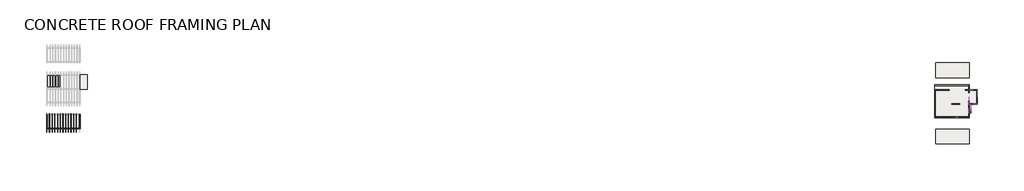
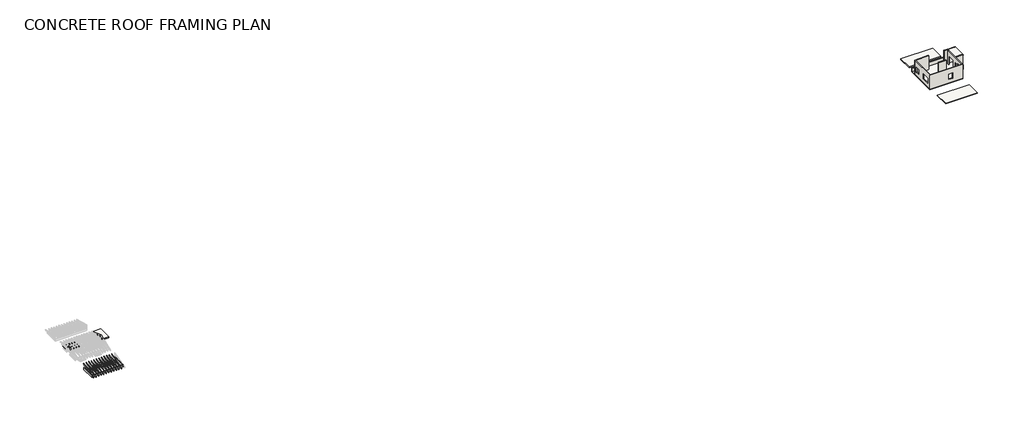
# One storey, part 1 of 6: 52 beams, 12 walls, 8 slabs.
"""IFC4 building model written with IfcOpenShell, lengths in millimetres."""

from ifc_helpers import new_model, si_unit, frame, origin, place, context, project, spatial, polyline, outline, extrude, faceted_brep, element, save

model = new_model("IFC4")

# Units and contexts
model_context = context("Model", 3, world=origin())
ifc_project = project(units=[si_unit("LENGTHUNIT", "METRE", prefix="MILLI")], contexts=[model_context])

# Site, building, storey
site = spatial("IfcSite", under=ifc_project)
building = spatial("IfcBuilding", under=site)
storey = spatial("IfcBuildingStorey", under=building, Name="CONCRETE ROOF FRAMING PLAN", Elevation=3048.0)

# Beams
placement = place(None, origin())
element("IfcBeam", 1, ObjectType="Concrete-Rectangular Beam : 5 5/8 x 16", at=placement, inside=storey, context=model_context, shape_type="Brep", body=[
    faceted_brep([(152.4, -2619.4155437, 2437.4750123), (77.7875, -2619.4155437, 2437.4750123), (9.525, -2619.4155437, 2437.4750123), (9.525, -5953.1655549, 2437.4750123), (39.6875, -5953.1655549, 2437.4750123), (152.4, -5953.1655549, 2437.4750123), (152.4, -5810.2905549, 2437.4750123), (152.4, -2762.2905437, 2437.4750123), (9.525, -2619.4155437, 2032.0), (9.525, -2762.2905437, 2032.0), (9.525, -2762.2905437, 2031.0750123), (9.525, -5810.2905549, 2031.0750123), (9.525, -5810.2905549, 2031.5384896), (9.525, -5953.1655549, 2031.5384896), (152.4, -5810.2905549, 2031.0750123), (152.4, -2762.2905437, 2031.0750123), (152.4, -5953.1655549, 2032.0), (152.4, -5953.1655549, 2031.5384896), (152.4, -5810.2905549, 2031.5384896), (152.4, -2762.2905437, 2032.0), (152.4, -2619.4155437, 2032.0)], [[[0, 1, 2, 3, 4, 5, 6, 7]], [[3, 2, 8, 9, 10, 11, 12, 13]], [[14, 11, 10, 15]], [[0, 7, 6, 5, 16, 17, 18, 14, 15, 19, 20]], [[2, 1, 0, 20, 8]], [[5, 4, 3, 13, 17, 16]], [[12, 11, 14, 18]], [[13, 12, 18, 17]], [[9, 19, 15, 10]], [[19, 9, 8, 20]]]),
])
element("IfcBeam", 2, ObjectType="Concrete-Rectangular Beam : 5 5/8 x 16", at=placement, inside=storey, context=model_context, shape_type="Brep", body=[
    faceted_brep([(7610.475, -2619.4155437, 2438.4), (7467.6, -2619.4155437, 2438.4), (7467.6, -2762.2905437, 2438.4), (7467.6, -5810.2905549, 2438.4), (7467.6, -5953.1655549, 2438.4), (7610.475, -5953.1655549, 2438.4), (7467.6, -2619.4155437, 2032.0), (7467.6, -2762.2905437, 2032.0), (7467.6, -3838.6155549, 2032.0), (7467.6, -4753.0155549, 2032.0), (7467.6, -5810.2905549, 2032.0), (7467.6, -5953.1655549, 2032.0), (7610.475, -2619.4155437, 2032.0), (7610.475, -3838.6155549, 2032.0), (7610.475, -4753.0155549, 2032.0), (7610.475, -5810.2905549, 2032.0), (7610.475, -5953.1655549, 2032.0)], [[[0, 1, 2, 3, 4, 5]], [[1, 6, 7, 8, 9, 10, 11, 4, 3, 2]], [[6, 12, 13, 14, 15, 16, 11, 10, 9, 8, 7]], [[12, 0, 5, 16, 15, 14, 13]], [[1, 0, 12, 6]], [[5, 4, 11, 16]]]),
])
element("IfcBeam", 3, ObjectType="Concrete-Rectangular Beam : 5 5/8 x 16", at=placement, inside=storey, context=model_context, shape_type="SweptSolid", body=[
    extrude(outline(polyline([(2438.4, 39.6875), (2437.4750123, 39.6875), (2437.4750123, 152.4), (2032.0, 152.4), (2032.0, 7467.6), (2438.4, 7467.6), (2438.4, 39.6875)])), frame((0.0, -5953.1655549, 0.0), z_axis=(0.0, 1.0, 0.0), x_axis=(0.0, 0.0, 1.0)), (0.0, 0.0, 1.0), 142.875),
])
element("IfcBeam", 4, ObjectType="Dimension Lumber : 2x4", at=placement, inside=storey, context=model_context, shape_type="SweptSolid", body=[
    extrude(outline(polyline([(100.0125, -4882.1322103), (61.9125, -4882.1322103), (61.9125, -4793.2322103), (100.0125, -4793.2322103), (100.0125, -4882.1322103)])), frame((0.0, 0.0, 2578.1), z_axis=(0.0, 0.0, 1.0), x_axis=(1.0, 0.0, 0.0)), (0.0, 0.0, 1.0), 202.3272588),
    extrude(outline(polyline([(-4793.2322103, 2752.8257293), (-4793.2322103, 2578.1), (-4882.1322103, 2578.1), (-4882.1322103, 2728.395195), (-4793.2322103, 2752.8257293)])), frame((61.9125, 0.0, 0.0), z_axis=(1.0, 0.0, 0.0), x_axis=(0.0, 1.0, 0.0)), (0.0, 0.0, 1.0), 38.1),
])
element("IfcBeam", 5, ObjectType="Dimension Lumber : 2x4", at=placement, inside=storey, context=model_context, shape_type="SweptSolid", body=[
    extrude(outline(polyline([(0.0, 38.1), (1058.05628, 38.1), (1058.05628, 0.0), (0.0, 0.0), (0.0, 38.1)])), frame((100.0125, -4805.0108113, 2757.9737126), z_axis=(0.0, 0.26498539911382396, 0.964252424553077), x_axis=(0.0, 0.964252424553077, -0.26498539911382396)), (0.0, 0.0, 1.0), 88.9),
    extrude(outline(polyline([(-4781.4536093, 2843.6957531), (-3814.9801745, 2578.1), (-4150.4703573, 2578.1), (-4805.0108113, 2757.9737126), (-4781.4536093, 2843.6957531)])), frame((61.9125, 0.0, 0.0), z_axis=(1.0, 0.0, 0.0), x_axis=(0.0, 1.0, 0.0)), (0.0, 0.0, 1.0), 38.1),
    extrude(outline(polyline([(-4622.0099499, 2799.8791749), (-3814.9801745, 2578.1), (-4150.4703573, 2578.1), (-4789.7550414, 2753.7812872), (-4622.0099499, 2799.8791749)])), frame((61.9125, 0.0, 0.0), z_axis=(1.0, 0.0, 0.0), x_axis=(0.0, 1.0, 0.0)), (0.0, 0.0, 1.0), 38.1),
])
element("IfcBeam", 6, ObjectType="Dimension Lumber : 2x4", at=placement, inside=storey, context=model_context, shape_type="SweptSolid", body=[
    extrude(outline(polyline([(709.6125, -4882.1322103), (671.5125, -4882.1322103), (671.5125, -4793.2322103), (709.6125, -4793.2322103), (709.6125, -4882.1322103)])), frame((0.0, 0.0, 2578.1), z_axis=(0.0, 0.0, 1.0), x_axis=(1.0, 0.0, 0.0)), (0.0, 0.0, 1.0), 202.3272588),
])
element("IfcBeam", 7, ObjectType="Dimension Lumber : 2x4", at=placement, inside=storey, context=model_context, shape_type="SweptSolid", body=[
    extrude(outline(polyline([(0.0, 38.1), (1058.05628, 38.1), (1058.05628, 0.0), (0.0, 0.0), (0.0, 38.1)])), frame((709.6125, -4805.0108113, 2757.9737126), z_axis=(0.0, 0.26498539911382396, 0.964252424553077), x_axis=(0.0, 0.964252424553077, -0.26498539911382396)), (0.0, 0.0, 1.0), 88.9),
])
element("IfcBeam", 8, ObjectType="Dimension Lumber : 2x4", at=placement, inside=storey, context=model_context, shape_type="SweptSolid", body=[
    extrude(outline(polyline([(1319.2125, -4882.1322103), (1281.1125, -4882.1322103), (1281.1125, -4793.2322103), (1319.2125, -4793.2322103), (1319.2125, -4882.1322103)])), frame((0.0, 0.0, 2578.1), z_axis=(0.0, 0.0, 1.0), x_axis=(1.0, 0.0, 0.0)), (0.0, 0.0, 1.0), 202.3272588),
])
element("IfcBeam", 9, ObjectType="Dimension Lumber : 2x4", at=placement, inside=storey, context=model_context, shape_type="SweptSolid", body=[
    extrude(outline(polyline([(0.0, 38.1), (1058.05628, 38.1), (1058.05628, 0.0), (0.0, 0.0), (0.0, 38.1)])), frame((1319.2125, -4805.0108113, 2757.9737126), z_axis=(0.0, 0.26498539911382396, 0.964252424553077), x_axis=(0.0, 0.964252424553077, -0.26498539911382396)), (0.0, 0.0, 1.0), 88.9),
])
element("IfcBeam", 10, ObjectType="Dimension Lumber : 2x4", at=placement, inside=storey, context=model_context, shape_type="SweptSolid", body=[
    extrude(outline(polyline([(1928.8125, -4882.1322103), (1890.7125, -4882.1322103), (1890.7125, -4793.2322103), (1928.8125, -4793.2322103), (1928.8125, -4882.1322103)])), frame((0.0, 0.0, 2578.1), z_axis=(0.0, 0.0, 1.0), x_axis=(1.0, 0.0, 0.0)), (0.0, 0.0, 1.0), 202.3272588),
])
element("IfcBeam", 11, ObjectType="Dimension Lumber : 2x4", at=placement, inside=storey, context=model_context, shape_type="SweptSolid", body=[
    extrude(outline(polyline([(0.0, 38.1), (1058.05628, 38.1), (1058.05628, 0.0), (0.0, 0.0), (0.0, 38.1)])), frame((1928.8125, -4805.0108113, 2757.9737126), z_axis=(0.0, 0.26498539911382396, 0.964252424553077), x_axis=(0.0, 0.964252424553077, -0.26498539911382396)), (0.0, 0.0, 1.0), 88.9),
])
element("IfcBeam", 12, ObjectType="Dimension Lumber : 2x4", at=placement, inside=storey, context=model_context, shape_type="SweptSolid", body=[
    extrude(outline(polyline([(2538.4125, -4882.1322103), (2500.3125, -4882.1322103), (2500.3125, -4793.2322103), (2538.4125, -4793.2322103), (2538.4125, -4882.1322103)])), frame((0.0, 0.0, 2578.1), z_axis=(0.0, 0.0, 1.0), x_axis=(1.0, 0.0, 0.0)), (0.0, 0.0, 1.0), 202.3272588),
])
element("IfcBeam", 13, ObjectType="Dimension Lumber : 2x4", at=placement, inside=storey, context=model_context, shape_type="SweptSolid", body=[
    extrude(outline(polyline([(0.0, 38.1), (1058.05628, 38.1), (1058.05628, 0.0), (0.0, 0.0), (0.0, 38.1)])), frame((2538.4125, -4805.0108113, 2757.9737126), z_axis=(0.0, 0.26498539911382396, 0.964252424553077), x_axis=(0.0, 0.964252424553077, -0.26498539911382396)), (0.0, 0.0, 1.0), 88.9),
])
element("IfcBeam", 14, ObjectType="Dimension Lumber : 2x4", at=placement, inside=storey, context=model_context, shape_type="SweptSolid", body=[
    extrude(outline(polyline([(3148.0125, -4882.1322103), (3109.9125, -4882.1322103), (3109.9125, -4793.2322103), (3148.0125, -4793.2322103), (3148.0125, -4882.1322103)])), frame((0.0, 0.0, 2578.1), z_axis=(0.0, 0.0, 1.0), x_axis=(1.0, 0.0, 0.0)), (0.0, 0.0, 1.0), 202.3272588),
])
element("IfcBeam", 15, ObjectType="Dimension Lumber : 2x4", at=placement, inside=storey, context=model_context, shape_type="SweptSolid", body=[
    extrude(outline(polyline([(0.0, 38.1), (1058.05628, 38.1), (1058.05628, 0.0), (0.0, 0.0), (0.0, 38.1)])), frame((3148.0125, -4805.0108113, 2757.9737126), z_axis=(0.0, 0.26498539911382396, 0.964252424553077), x_axis=(0.0, 0.964252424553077, -0.26498539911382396)), (0.0, 0.0, 1.0), 88.9),
])
element("IfcBeam", 16, ObjectType="Dimension Lumber : 2x4", at=placement, inside=storey, context=model_context, shape_type="SweptSolid", body=[
    extrude(outline(polyline([(3757.6125, -4882.1322103), (3719.5125, -4882.1322103), (3719.5125, -4793.2322103), (3757.6125, -4793.2322103), (3757.6125, -4882.1322103)])), frame((0.0, 0.0, 2578.1), z_axis=(0.0, 0.0, 1.0), x_axis=(1.0, 0.0, 0.0)), (0.0, 0.0, 1.0), 202.3272588),
])
element("IfcBeam", 17, ObjectType="Dimension Lumber : 2x4", at=placement, inside=storey, context=model_context, shape_type="SweptSolid", body=[
    extrude(outline(polyline([(0.0, 38.1), (1058.05628, 38.1), (1058.05628, 0.0), (0.0, 0.0), (0.0, 38.1)])), frame((3757.6125, -4805.0108113, 2757.9737126), z_axis=(0.0, 0.26498539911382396, 0.964252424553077), x_axis=(0.0, 0.964252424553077, -0.26498539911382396)), (0.0, 0.0, 1.0), 88.9),
])
element("IfcBeam", 18, ObjectType="Dimension Lumber : 2x4", at=placement, inside=storey, context=model_context, shape_type="SweptSolid", body=[
    extrude(outline(polyline([(4367.2125, -4882.1322103), (4329.1125, -4882.1322103), (4329.1125, -4793.2322103), (4367.2125, -4793.2322103), (4367.2125, -4882.1322103)])), frame((0.0, 0.0, 2578.1), z_axis=(0.0, 0.0, 1.0), x_axis=(1.0, 0.0, 0.0)), (0.0, 0.0, 1.0), 202.3272588),
])
element("IfcBeam", 19, ObjectType="Dimension Lumber : 2x4", at=placement, inside=storey, context=model_context, shape_type="SweptSolid", body=[
    extrude(outline(polyline([(0.0, 38.1), (1058.05628, 38.1), (1058.05628, 0.0), (0.0, 0.0), (0.0, 38.1)])), frame((4367.2125, -4805.0108113, 2757.9737126), z_axis=(0.0, 0.26498539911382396, 0.964252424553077), x_axis=(0.0, 0.964252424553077, -0.26498539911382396)), (0.0, 0.0, 1.0), 88.9),
])
element("IfcBeam", 20, ObjectType="Dimension Lumber : 2x4", at=placement, inside=storey, context=model_context, shape_type="SweptSolid", body=[
    extrude(outline(polyline([(4976.8125, -4882.1322103), (4938.7125, -4882.1322103), (4938.7125, -4793.2322103), (4976.8125, -4793.2322103), (4976.8125, -4882.1322103)])), frame((0.0, 0.0, 2578.1), z_axis=(0.0, 0.0, 1.0), x_axis=(1.0, 0.0, 0.0)), (0.0, 0.0, 1.0), 202.3272588),
])
element("IfcBeam", 21, ObjectType="Dimension Lumber : 2x4", at=placement, inside=storey, context=model_context, shape_type="SweptSolid", body=[
    extrude(outline(polyline([(0.0, 38.1), (1058.05628, 38.1), (1058.05628, 0.0), (0.0, 0.0), (0.0, 38.1)])), frame((4976.8125, -4805.0108113, 2757.9737126), z_axis=(0.0, 0.26498539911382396, 0.964252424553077), x_axis=(0.0, 0.964252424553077, -0.26498539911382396)), (0.0, 0.0, 1.0), 88.9),
])
element("IfcBeam", 22, ObjectType="Dimension Lumber : 2x4", at=placement, inside=storey, context=model_context, shape_type="SweptSolid", body=[
    extrude(outline(polyline([(5586.4125, -4882.1322103), (5548.3125, -4882.1322103), (5548.3125, -4793.2322103), (5586.4125, -4793.2322103), (5586.4125, -4882.1322103)])), frame((0.0, 0.0, 2578.1), z_axis=(0.0, 0.0, 1.0), x_axis=(1.0, 0.0, 0.0)), (0.0, 0.0, 1.0), 202.3272588),
])
element("IfcBeam", 23, ObjectType="Dimension Lumber : 2x4", at=placement, inside=storey, context=model_context, shape_type="SweptSolid", body=[
    extrude(outline(polyline([(0.0, 38.1), (1058.05628, 38.1), (1058.05628, 0.0), (0.0, 0.0), (0.0, 38.1)])), frame((5586.4125, -4805.0108113, 2757.9737126), z_axis=(0.0, 0.26498539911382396, 0.964252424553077), x_axis=(0.0, 0.964252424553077, -0.26498539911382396)), (0.0, 0.0, 1.0), 88.9),
])
element("IfcBeam", 24, ObjectType="Dimension Lumber : 2x4", at=placement, inside=storey, context=model_context, shape_type="SweptSolid", body=[
    extrude(outline(polyline([(6196.0125, -4882.1322103), (6157.9125, -4882.1322103), (6157.9125, -4793.2322103), (6196.0125, -4793.2322103), (6196.0125, -4882.1322103)])), frame((0.0, 0.0, 2578.1), z_axis=(0.0, 0.0, 1.0), x_axis=(1.0, 0.0, 0.0)), (0.0, 0.0, 1.0), 202.3272588),
])
element("IfcBeam", 25, ObjectType="Dimension Lumber : 2x4", at=placement, inside=storey, context=model_context, shape_type="SweptSolid", body=[
    extrude(outline(polyline([(0.0, 38.1), (1058.05628, 38.1), (1058.05628, 0.0), (0.0, 0.0), (0.0, 38.1)])), frame((6196.0125, -4805.0108113, 2757.9737126), z_axis=(0.0, 0.26498539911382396, 0.964252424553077), x_axis=(0.0, 0.964252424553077, -0.26498539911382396)), (0.0, 0.0, 1.0), 88.9),
])
element("IfcBeam", 26, ObjectType="Dimension Lumber : 2x4", at=placement, inside=storey, context=model_context, shape_type="SweptSolid", body=[
    extrude(outline(polyline([(6805.6125, -4882.1322103), (6767.5125, -4882.1322103), (6767.5125, -4793.2322103), (6805.6125, -4793.2322103), (6805.6125, -4882.1322103)])), frame((0.0, 0.0, 2578.1), z_axis=(0.0, 0.0, 1.0), x_axis=(1.0, 0.0, 0.0)), (0.0, 0.0, 1.0), 202.3272588),
])
element("IfcBeam", 27, ObjectType="Dimension Lumber : 2x4", at=placement, inside=storey, context=model_context, shape_type="SweptSolid", body=[
    extrude(outline(polyline([(0.0, 38.1), (1058.05628, 38.1), (1058.05628, 0.0), (0.0, 0.0), (0.0, 38.1)])), frame((6805.6125, -4805.0108113, 2757.9737126), z_axis=(0.0, 0.26498539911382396, 0.964252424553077), x_axis=(0.0, 0.964252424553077, -0.26498539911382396)), (0.0, 0.0, 1.0), 88.9),
])
element("IfcBeam", 28, ObjectType="Dimension Lumber : 2x6", at=placement, inside=storey, context=model_context, shape_type="SweptSolid", body=[
    extrude(outline(polyline([(7519.9875, -5956.2385842), (7519.9875, -2619.4155437), (7558.0875, -2619.4155437), (7558.0875, -5956.2385842), (7519.9875, -5956.2385842)])), frame((0.0, 0.0, 2438.4), z_axis=(0.0, 0.0, 1.0), x_axis=(1.0, 0.0, 0.0)), (0.0, 0.0, 1.0), 139.7),
    extrude(outline(polyline([(-5429.0397254, 2578.1), (-2619.4155437, 2578.1), (-2619.4155437, 2438.4), (-5937.3925032, 2438.4), (-5429.0397254, 2578.1)])), frame((7519.9875, 0.0, 0.0), z_axis=(1.0, 0.0, 0.0), x_axis=(0.0, 1.0, 0.0)), (0.0, 0.0, 1.0), 38.1),
])
element("IfcBeam", 29, ObjectType="Dimension Lumber : 2x6", at=placement, inside=storey, context=model_context, shape_type="SweptSolid", body=[
    extrude(outline(polyline([(61.9125, -5956.2385842), (61.9125, -2619.4155437), (100.0125, -2619.4155437), (100.0125, -5956.2385842), (61.9125, -5956.2385842)])), frame((0.0, 0.0, 2438.4), z_axis=(0.0, 0.0, 1.0), x_axis=(1.0, 0.0, 0.0)), (0.0, 0.0, 1.0), 139.7),
    extrude(outline(polyline([(-5429.0397254, 2578.1), (-2619.4155437, 2578.1), (-2619.4155437, 2438.4), (-5937.3925032, 2438.4), (-5429.0397254, 2578.1)])), frame((61.9125, 0.0, 0.0), z_axis=(1.0, 0.0, 0.0), x_axis=(0.0, 1.0, 0.0)), (0.0, 0.0, 1.0), 38.1),
])
element("IfcBeam", 30, ObjectType="Dimension Lumber : 2x6", at=placement, inside=storey, context=model_context, shape_type="SweptSolid", body=[
    extrude(outline(polyline([(0.0, 38.1), (4270.8351979, 38.1), (4270.8351979, 0.0), (0.0, 0.0), (0.0, 38.1)])), frame((100.0125, -6628.5688352, 2248.4584126), z_axis=(0.0, -0.2649853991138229, 0.9642524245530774), x_axis=(0.0, 0.9642524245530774, 0.2649853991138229)), (0.0, 0.0, 1.0), 139.7),
    extrude(outline(polyline([(-6562.7655549, 2411.4208325), (-2547.424101, 3514.8734458), (-2510.4056407, 3380.167382), (-6562.7655549, 2266.5417568), (-6562.7655549, 2411.4208325)])), frame((61.9125, 0.0, 0.0), z_axis=(1.0, 0.0, 0.0), x_axis=(0.0, 1.0, 0.0)), (0.0, 0.0, 1.0), 38.1),
    extrude(outline(polyline([(-6562.7655549, 2411.4208325), (-2619.4155437, 3495.0895378), (-2619.4155437, 3350.2104622), (-6562.7655549, 2266.5417568), (-6562.7655549, 2411.4208325)])), frame((61.9125, 0.0, 0.0), z_axis=(1.0, 0.0, 0.0), x_axis=(0.0, 1.0, 0.0)), (0.0, 0.0, 1.0), 38.1),
])
element("IfcBeam", 31, ObjectType="Dimension Lumber : 2x6", at=placement, inside=storey, context=model_context, shape_type="SweptSolid", body=[
    extrude(outline(polyline([(671.5125, -5956.2385842), (671.5125, -2619.4155437), (709.6125, -2619.4155437), (709.6125, -5956.2385842), (671.5125, -5956.2385842)])), frame((0.0, 0.0, 2438.4), z_axis=(0.0, 0.0, 1.0), x_axis=(1.0, 0.0, 0.0)), (0.0, 0.0, 1.0), 139.7),
])
element("IfcBeam", 32, ObjectType="Dimension Lumber : 2x6", at=placement, inside=storey, context=model_context, shape_type="SweptSolid", body=[
    extrude(outline(polyline([(0.0, 38.1), (4270.8351979, 38.1), (4270.8351979, 0.0), (0.0, 0.0), (0.0, 38.1)])), frame((709.6125, -6628.5688352, 2248.4584126), z_axis=(0.0, -0.2649853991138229, 0.9642524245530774), x_axis=(0.0, 0.9642524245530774, 0.2649853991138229)), (0.0, 0.0, 1.0), 139.7),
])
element("IfcBeam", 33, ObjectType="Dimension Lumber : 2x6", at=placement, inside=storey, context=model_context, shape_type="SweptSolid", body=[
    extrude(outline(polyline([(1281.1125, -5956.2385842), (1281.1125, -2619.4155437), (1319.2125, -2619.4155437), (1319.2125, -5956.2385842), (1281.1125, -5956.2385842)])), frame((0.0, 0.0, 2438.4), z_axis=(0.0, 0.0, 1.0), x_axis=(1.0, 0.0, 0.0)), (0.0, 0.0, 1.0), 139.7),
])
element("IfcBeam", 34, ObjectType="Dimension Lumber : 2x6", at=placement, inside=storey, context=model_context, shape_type="SweptSolid", body=[
    extrude(outline(polyline([(0.0, 38.1), (4270.8351979, 38.1), (4270.8351979, 0.0), (0.0, 0.0), (0.0, 38.1)])), frame((1319.2125, -6628.5688352, 2248.4584126), z_axis=(0.0, -0.2649853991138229, 0.9642524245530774), x_axis=(0.0, 0.9642524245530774, 0.2649853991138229)), (0.0, 0.0, 1.0), 139.7),
])
element("IfcBeam", 35, ObjectType="Dimension Lumber : 2x6", at=placement, inside=storey, context=model_context, shape_type="SweptSolid", body=[
    extrude(outline(polyline([(1890.7125, -5956.2385842), (1890.7125, -2619.4155437), (1928.8125, -2619.4155437), (1928.8125, -5956.2385842), (1890.7125, -5956.2385842)])), frame((0.0, 0.0, 2438.4), z_axis=(0.0, 0.0, 1.0), x_axis=(1.0, 0.0, 0.0)), (0.0, 0.0, 1.0), 139.7),
])
element("IfcBeam", 36, ObjectType="Dimension Lumber : 2x6", at=placement, inside=storey, context=model_context, shape_type="SweptSolid", body=[
    extrude(outline(polyline([(0.0, 38.1), (4270.8351979, 38.1), (4270.8351979, 0.0), (0.0, 0.0), (0.0, 38.1)])), frame((1928.8125, -6628.5688352, 2248.4584126), z_axis=(0.0, -0.2649853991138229, 0.9642524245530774), x_axis=(0.0, 0.9642524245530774, 0.2649853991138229)), (0.0, 0.0, 1.0), 139.7),
])
element("IfcBeam", 37, ObjectType="Dimension Lumber : 2x6", at=placement, inside=storey, context=model_context, shape_type="SweptSolid", body=[
    extrude(outline(polyline([(2500.3125, -5956.2385842), (2500.3125, -2619.4155437), (2538.4125, -2619.4155437), (2538.4125, -5956.2385842), (2500.3125, -5956.2385842)])), frame((0.0, 0.0, 2438.4), z_axis=(0.0, 0.0, 1.0), x_axis=(1.0, 0.0, 0.0)), (0.0, 0.0, 1.0), 139.7),
])
element("IfcBeam", 38, ObjectType="Dimension Lumber : 2x6", at=placement, inside=storey, context=model_context, shape_type="SweptSolid", body=[
    extrude(outline(polyline([(0.0, 38.1), (4270.8351979, 38.1), (4270.8351979, 0.0), (0.0, 0.0), (0.0, 38.1)])), frame((2538.4125, -6628.5688352, 2248.4584126), z_axis=(0.0, -0.2649853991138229, 0.9642524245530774), x_axis=(0.0, 0.9642524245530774, 0.2649853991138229)), (0.0, 0.0, 1.0), 139.7),
])
element("IfcBeam", 39, ObjectType="Dimension Lumber : 2x6", at=placement, inside=storey, context=model_context, shape_type="SweptSolid", body=[
    extrude(outline(polyline([(3109.9125, -5956.2385842), (3109.9125, -2619.4155437), (3148.0125, -2619.4155437), (3148.0125, -5956.2385842), (3109.9125, -5956.2385842)])), frame((0.0, 0.0, 2438.4), z_axis=(0.0, 0.0, 1.0), x_axis=(1.0, 0.0, 0.0)), (0.0, 0.0, 1.0), 139.7),
])
element("IfcBeam", 40, ObjectType="Dimension Lumber : 2x6", at=placement, inside=storey, context=model_context, shape_type="SweptSolid", body=[
    extrude(outline(polyline([(0.0, 38.1), (4270.8351979, 38.1), (4270.8351979, 0.0), (0.0, 0.0), (0.0, 38.1)])), frame((3148.0125, -6628.5688352, 2248.4584126), z_axis=(0.0, -0.2649853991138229, 0.9642524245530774), x_axis=(0.0, 0.9642524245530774, 0.2649853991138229)), (0.0, 0.0, 1.0), 139.7),
])
element("IfcBeam", 41, ObjectType="Dimension Lumber : 2x6", at=placement, inside=storey, context=model_context, shape_type="SweptSolid", body=[
    extrude(outline(polyline([(3719.5125, -5956.2385842), (3719.5125, -2619.4155437), (3757.6125, -2619.4155437), (3757.6125, -5956.2385842), (3719.5125, -5956.2385842)])), frame((0.0, 0.0, 2438.4), z_axis=(0.0, 0.0, 1.0), x_axis=(1.0, 0.0, 0.0)), (0.0, 0.0, 1.0), 139.7),
])
element("IfcBeam", 42, ObjectType="Dimension Lumber : 2x6", at=placement, inside=storey, context=model_context, shape_type="SweptSolid", body=[
    extrude(outline(polyline([(0.0, 38.1), (4270.8351979, 38.1), (4270.8351979, 0.0), (0.0, 0.0), (0.0, 38.1)])), frame((3757.6125, -6628.5688352, 2248.4584126), z_axis=(0.0, -0.2649853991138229, 0.9642524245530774), x_axis=(0.0, 0.9642524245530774, 0.2649853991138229)), (0.0, 0.0, 1.0), 139.7),
])
element("IfcBeam", 43, ObjectType="Dimension Lumber : 2x6", at=placement, inside=storey, context=model_context, shape_type="SweptSolid", body=[
    extrude(outline(polyline([(4329.1125, -5956.2385842), (4329.1125, -2619.4155437), (4367.2125, -2619.4155437), (4367.2125, -5956.2385842), (4329.1125, -5956.2385842)])), frame((0.0, 0.0, 2438.4), z_axis=(0.0, 0.0, 1.0), x_axis=(1.0, 0.0, 0.0)), (0.0, 0.0, 1.0), 139.7),
])
element("IfcBeam", 44, ObjectType="Dimension Lumber : 2x6", at=placement, inside=storey, context=model_context, shape_type="SweptSolid", body=[
    extrude(outline(polyline([(0.0, 38.1), (4270.8351979, 38.1), (4270.8351979, 0.0), (0.0, 0.0), (0.0, 38.1)])), frame((4367.2125, -6628.5688352, 2248.4584126), z_axis=(0.0, -0.2649853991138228, 0.9642524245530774), x_axis=(0.0, 0.9642524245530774, 0.2649853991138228)), (0.0, 0.0, 1.0), 139.7),
])
element("IfcBeam", 45, ObjectType="Dimension Lumber : 2x6", at=placement, inside=storey, context=model_context, shape_type="SweptSolid", body=[
    extrude(outline(polyline([(4938.7125, -5956.2385842), (4938.7125, -2619.4155437), (4976.8125, -2619.4155437), (4976.8125, -5956.2385842), (4938.7125, -5956.2385842)])), frame((0.0, 0.0, 2438.4), z_axis=(0.0, 0.0, 1.0), x_axis=(1.0, 0.0, 0.0)), (0.0, 0.0, 1.0), 139.7),
])
element("IfcBeam", 46, ObjectType="Dimension Lumber : 2x6", at=placement, inside=storey, context=model_context, shape_type="SweptSolid", body=[
    extrude(outline(polyline([(0.0, 38.1), (4270.8351979, 38.1), (4270.8351979, 0.0), (0.0, 0.0), (0.0, 38.1)])), frame((4976.8125, -6628.5688352, 2248.4584126), z_axis=(0.0, -0.2649853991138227, 0.9642524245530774), x_axis=(0.0, 0.9642524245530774, 0.2649853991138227)), (0.0, 0.0, 1.0), 139.7),
])
element("IfcBeam", 47, ObjectType="Dimension Lumber : 2x6", at=placement, inside=storey, context=model_context, shape_type="SweptSolid", body=[
    extrude(outline(polyline([(5548.3125, -5956.2385842), (5548.3125, -2619.4155437), (5586.4125, -2619.4155437), (5586.4125, -5956.2385842), (5548.3125, -5956.2385842)])), frame((0.0, 0.0, 2438.4), z_axis=(0.0, 0.0, 1.0), x_axis=(1.0, 0.0, 0.0)), (0.0, 0.0, 1.0), 139.7),
])
element("IfcBeam", 48, ObjectType="Dimension Lumber : 2x6", at=placement, inside=storey, context=model_context, shape_type="SweptSolid", body=[
    extrude(outline(polyline([(0.0, 38.1), (4270.8351979, 38.1), (4270.8351979, 0.0), (0.0, 0.0), (0.0, 38.1)])), frame((5586.4125, -6628.5688352, 2248.4584126), z_axis=(0.0, -0.2649853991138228, 0.9642524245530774), x_axis=(0.0, 0.9642524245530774, 0.2649853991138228)), (0.0, 0.0, 1.0), 139.7),
])
element("IfcBeam", 49, ObjectType="Dimension Lumber : 2x6", at=placement, inside=storey, context=model_context, shape_type="SweptSolid", body=[
    extrude(outline(polyline([(6157.9125, -5956.2385842), (6157.9125, -2619.4155437), (6196.0125, -2619.4155437), (6196.0125, -5956.2385842), (6157.9125, -5956.2385842)])), frame((0.0, 0.0, 2438.4), z_axis=(0.0, 0.0, 1.0), x_axis=(1.0, 0.0, 0.0)), (0.0, 0.0, 1.0), 139.7),
])
element("IfcBeam", 50, ObjectType="Dimension Lumber : 2x6", at=placement, inside=storey, context=model_context, shape_type="SweptSolid", body=[
    extrude(outline(polyline([(0.0, 38.1), (4270.8351979, 38.1), (4270.8351979, 0.0), (0.0, 0.0), (0.0, 38.1)])), frame((6196.0125, -6628.5688352, 2248.4584126), z_axis=(0.0, -0.2649853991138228, 0.9642524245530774), x_axis=(0.0, 0.9642524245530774, 0.2649853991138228)), (0.0, 0.0, 1.0), 139.7),
])
element("IfcBeam", 51, ObjectType="Dimension Lumber : 2x6", at=placement, inside=storey, context=model_context, shape_type="SweptSolid", body=[
    extrude(outline(polyline([(6767.5125, -5956.2385842), (6767.5125, -2619.4155437), (6805.6125, -2619.4155437), (6805.6125, -5956.2385842), (6767.5125, -5956.2385842)])), frame((0.0, 0.0, 2438.4), z_axis=(0.0, 0.0, 1.0), x_axis=(1.0, 0.0, 0.0)), (0.0, 0.0, 1.0), 139.7),
])
element("IfcBeam", 52, ObjectType="Dimension Lumber : 2x6", at=placement, inside=storey, context=model_context, shape_type="SweptSolid", body=[
    extrude(outline(polyline([(0.0, 38.1), (4270.8351979, 38.1), (4270.8351979, 0.0), (0.0, 0.0), (0.0, 38.1)])), frame((6805.6125, -6628.5688352, 2248.4584126), z_axis=(0.0, -0.2649853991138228, 0.9642524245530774), x_axis=(0.0, 0.9642524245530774, 0.2649853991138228)), (0.0, 0.0, 1.0), 139.7),
])

# Slabs
element("IfcSlab", 53, ObjectType="6\" Concrete", at=placement, inside=storey, context=model_context, shape_type="SweptSolid", body=[
    extrude(outline(polyline([(209635.3333898, 4057.5892742), (209635.3333898, 2990.7892742), (211464.1333898, 2990.7892742), (211464.1333898, -362.0107258), (209940.1333898, -362.0107258), (209940.1333898, -2343.2107258), (209635.3333898, -2343.2107258), (209635.3333898, -3390.9607258), (201748.6333898, -3390.9607258), (201748.6333898, 4057.5892742), (209635.3333898, 4057.5892742)])), frame((0.0, 0.0, 2438.4), z_axis=(0.0, 0.0, 1.0), x_axis=(1.0, 0.0, 0.0)), (0.0, 0.0, 1.0), 152.4),
])
element("IfcSlab", 54, ObjectType="6\" Concrete", at=placement, inside=storey, context=model_context, shape_type="SweptSolid", body=[
    extrude(outline(polyline([(209635.3333898, 9073.6275409), (209635.3333898, 5720.8275409), (202015.3333898, 5720.8275409), (202015.3333898, 9073.6275409), (209635.3333898, 9073.6275409)])), frame((0.0, 0.0, 2438.4), z_axis=(0.0, 0.0, 1.0), x_axis=(1.0, 0.0, 0.0)), (0.0, 0.0, 1.0), 152.4),
])
element("IfcSlab", 55, ObjectType="6\" Concrete", at=placement, inside=storey, context=model_context, shape_type="SweptSolid", body=[
    extrude(outline(polyline([(209635.3333898, -9372.7012695), (202015.3333898, -9372.7012695), (202015.3333898, -6019.9012695), (209635.3333898, -6019.9012695), (209635.3333898, -9372.7012695)])), frame((0.0, 0.0, 2438.4), z_axis=(0.0, 0.0, 1.0), x_axis=(1.0, 0.0, 0.0)), (0.0, 0.0, 1.0), 152.4),
])
element("IfcSlab", 56, ObjectType="6\" Concrete", at=placement, inside=storey, context=model_context, shape_type="SweptSolid", body=[
    extrude(outline(polyline([(209635.3333898, 2990.7892742), (211464.1333898, 2990.7892742), (211464.1333898, -362.0107258), (209635.3333898, -362.0107258), (209635.3333898, 2990.7892742)])), frame((0.0, 0.0, 5943.6), z_axis=(0.0, 0.0, 1.0), x_axis=(1.0, 0.0, 0.0)), (0.0, 0.0, 1.0), 152.4),
])
element("IfcSlab", 57, ObjectType="6\" Concrete", at=placement, inside=storey, context=model_context, shape_type="Brep", body=[
    faceted_brep([(7661.275, 3038.475, 3352.8), (7661.275, 3232.15, 3352.8), (7661.275, 6197.6, 3352.8), (7661.275, 6391.275, 3352.8), (7966.075, 6391.275, 3352.8), (8982.075, 6391.275, 3352.8), (9286.875, 6391.275, 3352.8), (9286.875, 6197.6, 3352.8), (9286.875, 3232.15, 3352.8), (9286.875, 3038.475, 3352.8), (8982.075, 3038.475, 3352.8), (7966.075, 3038.475, 3352.8), (7661.275, 3038.475, 3505.2), (9286.875, 3038.475, 3505.2), (9286.875, 6391.275, 3505.2), (7661.275, 6391.275, 3505.2)], [[[0, 1, 2, 3, 4, 5, 6, 7, 8, 9, 10, 11]], [[12, 13, 14, 15]], [[3, 2, 1, 0, 12, 15]], [[6, 5, 4, 3, 15, 14]], [[9, 8, 7, 6, 14, 13]], [[0, 11, 10, 9, 13, 12]]]),
])
element("IfcSlab", 58, ObjectType="6\" Concrete", at=placement, inside=storey, context=model_context, shape_type="SweptSolid", body=[
    extrude(outline(polyline([(203.2, 3606.8), (203.2, 6229.3499888), (2978.15, 6229.3499888), (2978.15, 3606.8), (203.2, 3606.8)])), frame((0.0, 0.0, 2438.4), z_axis=(0.0, 0.0, 1.0), x_axis=(1.0, 0.0, 0.0)), (0.0, 0.0, 1.0), 152.4),
])
element("IfcSlab", 59, ObjectType="Generic - 6\"", at=placement, inside=storey, context=model_context, shape_type="SweptSolid", body=[
    extrude(outline(polyline([(209482.9333898, -2343.2107258), (209482.9333898, -362.0107258), (209940.1333898, -362.0107258), (209940.1333898, -2343.2107258), (209482.9333898, -2343.2107258)])), frame((0.0, 0.0, 5029.2), z_axis=(0.0, 0.0, 1.0), x_axis=(1.0, 0.0, 0.0)), (0.0, 0.0, 1.0), 152.4),
])
element("IfcSlab", 60, ObjectType="Generic - 7\"", at=placement, inside=storey, context=model_context, shape_type="SweptSolid", body=[
    extrude(outline(polyline([(209482.9333898, -2343.2107258), (209482.9333898, -362.0107258), (209940.1333898, -362.0107258), (209940.1333898, -2343.2107258), (209482.9333898, -2343.2107258)])), frame((0.0, 0.0, 3327.4), z_axis=(0.0, 0.0, 1.0), x_axis=(1.0, 0.0, 0.0)), (0.0, 0.0, 1.0), 177.8),
])

# Walls
element("IfcWall", 61, ObjectType="Exterior - 6\" Concrete", at=placement, inside=storey, context=model_context, shape_type="Brep", body=[
    faceted_brep([(211311.7333898, 2990.7892742, 2590.8), (209635.3333898, 2990.7892742, 2590.8), (209635.3333898, 2990.7892742, 6096.0), (211311.7333898, 2990.7892742, 6096.0), (211311.7333898, 2990.7892742, 3505.2), (211311.7333898, 2838.3892742, 2590.8), (211311.7333898, 2838.3892742, 6096.0), (209635.3333898, 2838.3892742, 6096.0), (209635.3333898, 2838.3892742, 2590.8)], [[[0, 1, 2, 3, 4]], [[5, 6, 7, 8]], [[1, 0, 5, 8]], [[3, 2, 7, 6]], [[1, 8, 7, 2]], [[0, 4, 3, 6, 5]]]),
])
element("IfcWall", 62, ObjectType="Exterior - 6\" Concrete", at=placement, inside=storey, context=model_context, shape_type="Brep", body=[
    faceted_brep([(211311.7333898, -209.6107258, 2590.8), (209635.3333898, -209.6107258, 2590.8), (209635.3333898, -209.6107258, 6096.0), (211311.7333898, -209.6107258, 6096.0), (211311.7333898, -362.0107258, 2590.8), (211311.7333898, -362.0107258, 3505.2), (211311.7333898, -362.0107258, 6096.0), (209635.3333898, -362.0107258, 6096.0), (209635.3333898, -362.0107258, 4724.4), (209635.3333898, -362.0107258, 3505.2), (209635.3333898, -362.0107258, 2590.8)], [[[0, 1, 2, 3]], [[4, 5, 6, 7, 8, 9, 10]], [[1, 0, 4, 10]], [[3, 2, 7, 6]], [[2, 1, 10, 9, 8, 7]], [[0, 3, 6, 5, 4]]]),
])
element("IfcWall", 63, ObjectType="Exterior - 6\" Concrete", at=placement, inside=storey, context=model_context, shape_type="Brep", body=[
    faceted_brep([(211464.1333898, -362.0107258, 2590.8), (211464.1333898, 2990.7892742, 2590.8), (211464.1333898, 2990.7892742, 3505.2), (211464.1333898, -362.0107258, 3505.2), (211311.7333898, -362.0107258, 2590.8), (211311.7333898, -362.0107258, 3505.2), (211311.7333898, 2990.7892742, 3505.2), (211311.7333898, 2990.7892742, 2590.8), (211311.7333898, 2838.3892742, 2590.8), (211311.7333898, -209.6107258, 2590.8)], [[[0, 1, 2, 3]], [[4, 5, 6, 7, 8, 9]], [[1, 0, 4, 9, 8, 7]], [[3, 2, 6, 5]], [[2, 1, 7, 6]], [[0, 3, 5, 4]]]),
])
element("IfcWall", 64, ObjectType="Generic - 6\"", at=placement, inside=storey, context=model_context, shape_type="Brep", body=[
    faceted_brep([(205063.3333898, 2990.7892742, 2590.8), (201748.6333898, 2990.7892742, 2590.8), (201748.6333898, 2990.7892742, 6096.0), (205063.3333898, 2990.7892742, 6096.0), (205063.3333898, 2838.3892742, 2590.8), (205063.3333898, 2838.3892742, 6096.0), (201901.0333898, 2838.3892742, 6096.0), (201748.6333898, 2838.3892742, 6096.0), (201748.6333898, 2838.3892742, 2590.8), (201901.0333898, 2838.3892742, 2590.8)], [[[0, 1, 2, 3]], [[4, 5, 6, 7, 8, 9]], [[1, 0, 4, 9, 8]], [[3, 2, 7, 6, 5]], [[0, 3, 5, 4]], [[2, 1, 8, 7]]]),
])
element("IfcWall", 65, ObjectType="Generic - 6\"", at=placement, inside=storey, context=model_context, shape_type="SweptSolid", body=[
    extrude(outline(polyline([(2838.3892742, 2590.8), (-3238.5607258, 2590.8), (-3238.5607258, 6096.0), (2838.3892742, 6096.0), (2838.3892742, 2590.8)]), holes=[polyline([(-546.1607258, 4724.4), (-2374.9607258, 4724.4), (-2374.9607258, 3505.2), (-546.1607258, 3505.2), (-546.1607258, 4724.4)]), polyline([(2194.2580168, 4724.4), (1279.8580168, 4724.4), (1279.8580168, 3505.2), (2194.2580168, 3505.2), (2194.2580168, 4724.4)])]), frame((201748.6333898, 0.0, 0.0), z_axis=(1.0, 0.0, 0.0), x_axis=(0.0, 1.0, 0.0)), (0.0, 0.0, 1.0), 152.4),
])
element("IfcWall", 66, ObjectType="Generic - 6\"", at=placement, inside=storey, context=model_context, shape_type="Brep", body=[
    faceted_brep([(201748.6333898, -3390.9607258, 2590.8), (209635.3333898, -3390.9607258, 2590.8), (209635.3333898, -3390.9607258, 6096.0), (201748.6333898, -3390.9607258, 6096.0), (206282.5333898, -3390.9607258, 4822.3265688), (207196.9333898, -3390.9607258, 4822.3265688), (207196.9333898, -3390.9607258, 3505.2), (206282.5333898, -3390.9607258, 3505.2), (209635.3333898, -3238.5607258, 2590.8), (209482.9333898, -3238.5607258, 2590.8), (201901.0333898, -3238.5607258, 2590.8), (201748.6333898, -3238.5607258, 2590.8), (201748.6333898, -3238.5607258, 6096.0), (201901.0333898, -3238.5607258, 6096.0), (209482.9333898, -3238.5607258, 6096.0), (209635.3333898, -3238.5607258, 6096.0), (207196.9333898, -3238.5607258, 4822.3265688), (206282.5333898, -3238.5607258, 4822.3265688), (206282.5333898, -3238.5607258, 3505.2), (207196.9333898, -3238.5607258, 3505.2)], [[[0, 1, 2, 3], [4, 5, 6, 7]], [[8, 9, 10, 11, 12, 13, 14, 15], [16, 17, 18, 19]], [[1, 0, 11, 10, 9, 8]], [[3, 2, 15, 14, 13, 12]], [[2, 1, 8, 15]], [[0, 3, 12, 11]], [[4, 17, 16, 5]], [[6, 19, 18, 7]], [[17, 4, 7, 18]], [[5, 16, 19, 6]]]),
])
element("IfcWall", 67, ObjectType="Generic - 6\"", at=placement, inside=storey, context=model_context, shape_type="Brep", body=[
    faceted_brep([(209482.9333898, -3238.5607258, 2590.8), (209482.9333898, -3238.5607258, 6096.0), (209482.9333898, 2838.3892742, 6096.0), (209482.9333898, 2838.3892742, 2590.8), (209482.9333898, 2304.9892742, 2590.8), (209482.9333898, 2304.9892742, 4826.0), (209482.9333898, 476.1892742, 4826.0), (209482.9333898, 476.1892742, 2590.8), (209482.9333898, -362.0107258, 4724.4), (209482.9333898, -2343.2107258, 4724.4), (209482.9333898, -2343.2107258, 3505.2), (209482.9333898, -2190.8107258, 3505.2), (209482.9333898, -362.0107258, 3505.2), (209635.3333898, -3238.5607258, 6096.0), (209635.3333898, -3238.5607258, 2590.8), (209635.3333898, -362.0107258, 2590.8), (209635.3333898, -209.6107258, 2590.8), (209635.3333898, 476.1892742, 2590.8), (209635.3333898, 476.1892742, 4826.0), (209635.3333898, 2304.9892742, 4826.0), (209635.3333898, 2304.9892742, 2590.8), (209635.3333898, 2838.3892742, 2590.8), (209635.3333898, 2838.3892742, 6096.0), (209635.3333898, -209.6107258, 6096.0), (209635.3333898, -362.0107258, 6096.0), (209635.3333898, -2343.2107258, 4724.4), (209635.3333898, -362.0107258, 4724.4), (209635.3333898, -362.0107258, 3505.2), (209635.3333898, -2343.2107258, 3505.2), (209563.8958898, 2838.3892742, 2590.8), (209563.8958898, 2838.3892742, 6096.0)], [[[0, 1, 2, 3, 4, 5, 6, 7], [8, 9, 10, 11, 12]], [[13, 14, 15, 16, 17, 18, 19, 20, 21, 22, 23, 24], [25, 26, 27, 28]], [[14, 0, 7, 17, 16, 15]], [[3, 29, 21, 20, 4]], [[2, 1, 13, 24, 23, 22, 30]], [[1, 0, 14, 13]], [[5, 19, 18, 6]], [[19, 5, 4, 20]], [[6, 18, 17, 7]], [[8, 26, 25, 9]], [[10, 28, 27, 12, 11]], [[26, 8, 12, 27]], [[9, 25, 28, 10]], [[3, 2, 30, 22, 21, 29]]]),
])
element("IfcWall", 68, ObjectType="Generic - 6\"", at=placement, inside=storey, context=model_context, shape_type="Brep", body=[
    faceted_brep([(208720.9333898, 2838.3892742, 2590.8), (209482.9333898, 2838.3892742, 2590.8), (209563.8958898, 2838.3892742, 2590.8), (209563.8958898, 2838.3892742, 6096.0), (209482.9333898, 2838.3892742, 6096.0), (208720.9333898, 2838.3892742, 6096.0), (208720.9333898, 2990.7892742, 2590.8), (208720.9333898, 2990.7892742, 6096.0), (209563.8958898, 2990.7892742, 6096.0), (209563.8958898, 2990.7892742, 2590.8), (209482.9333898, 2990.7892742, 2590.8)], [[[0, 1, 2, 3, 4, 5]], [[6, 7, 8, 9, 10]], [[2, 1, 0, 6, 10, 9]], [[3, 2, 9, 8]], [[5, 4, 3, 8, 7]], [[0, 5, 7, 6]]]),
])
element("IfcWall", 69, ObjectType="Generic - 6\"", at=placement, inside=storey, context=model_context, shape_type="SweptSolid", body=[
    extrude(outline(polyline([(205622.1333898, -200.0857258), (207400.1333898, -200.0857258), (207400.1333898, -352.4857258), (205622.1333898, -352.4857258), (205622.1333898, -200.0857258)])), frame((0.0, 0.0, 2590.8), z_axis=(0.0, 0.0, 1.0), x_axis=(1.0, 0.0, 0.0)), (0.0, 0.0, 1.0), 3505.2),
])
element("IfcWall", 70, ObjectType="Generic - 6\"", at=placement, inside=storey, context=model_context, shape_type="Brep", body=[
    faceted_brep([(209482.9333898, -2343.2107258, 3505.2), (209635.3333898, -2343.2107258, 3505.2), (209940.1333898, -2343.2107258, 3505.2), (209940.1333898, -2343.2107258, 5029.2), (209482.9333898, -2343.2107258, 5029.2), (209482.9333898, -2343.2107258, 4724.4), (209482.9333898, -2190.8107258, 3505.2), (209482.9333898, -2190.8107258, 5029.2), (209940.1333898, -2190.8107258, 5029.2), (209940.1333898, -2190.8107258, 3505.2)], [[[0, 1, 2, 3, 4, 5]], [[6, 7, 8, 9]], [[2, 1, 0, 6, 9]], [[3, 2, 9, 8]], [[4, 3, 8, 7]], [[0, 5, 4, 7, 6]]]),
])
element("IfcWall", 71, ObjectType="Generic - 6\"", at=placement, inside=storey, context=model_context, shape_type="Brep", body=[
    faceted_brep([(209635.3333898, 2990.7892742, 2590.8), (209635.3333898, 4057.5892742, 2590.8), (209635.3333898, 4057.5892742, 3505.2), (209635.3333898, 2990.7892742, 3505.2), (209482.9333898, 2990.7892742, 2590.8), (209482.9333898, 2990.7892742, 3505.2), (209482.9333898, 3905.1892742, 3505.2), (209482.9333898, 4057.5892742, 3505.2), (209482.9333898, 4057.5892742, 2590.8), (209482.9333898, 3905.1892742, 2590.8), (209563.8958898, 2990.7892742, 2590.8)], [[[0, 1, 2, 3]], [[4, 5, 6, 7, 8, 9]], [[1, 0, 10, 4, 9, 8]], [[3, 2, 7, 6, 5]], [[0, 3, 5, 4, 10]], [[2, 1, 8, 7]]]),
])
element("IfcWall", 72, ObjectType="Generic - 6\"", at=placement, inside=storey, context=model_context, shape_type="SweptSolid", body=[
    extrude(outline(polyline([(201748.6333898, 4057.5892742), (209482.9333898, 4057.5892742), (209482.9333898, 3905.1892742), (201748.6333898, 3905.1892742), (201748.6333898, 4057.5892742)])), frame((0.0, 0.0, 2590.8), z_axis=(0.0, 0.0, 1.0), x_axis=(1.0, 0.0, 0.0)), (0.0, 0.0, 1.0), 914.4),
])

save(model, "model.ifc")
